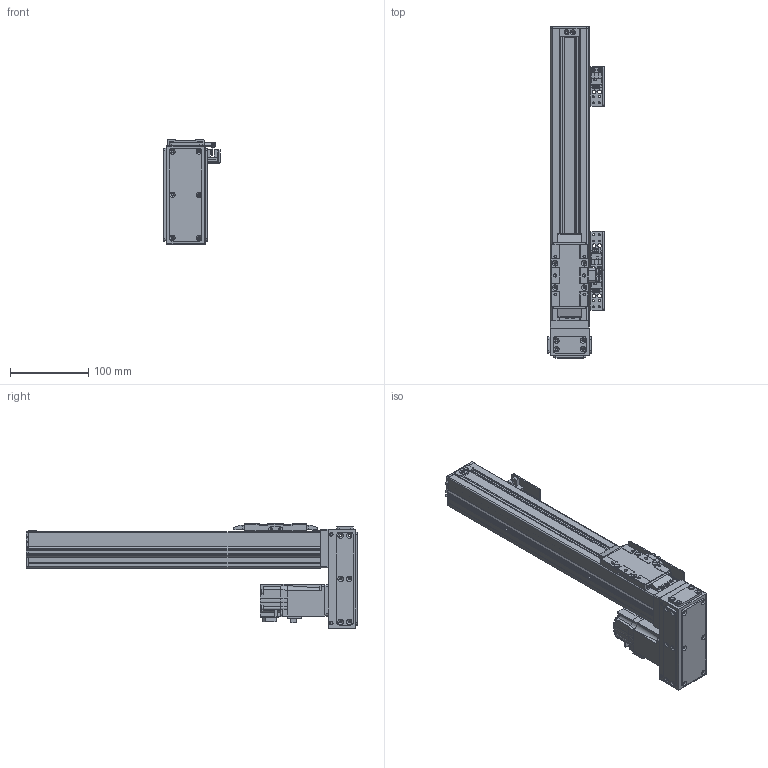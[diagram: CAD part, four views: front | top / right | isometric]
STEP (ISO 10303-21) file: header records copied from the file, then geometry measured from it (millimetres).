
FILE_DESCRIPTION(/* description */ (''),/* implementation_level */ '2;1');
FILE_NAME(/* name */ '\\192.168.0.160\disk1\HAN SHIN Master\B-설계부문\C-표준\B-2024년\BC02-표준도면\+로봇 개선표준도면\홈페이지 표준 도면\홈페이지 최종 작업 폴더\3D\HC\HC50-D10-N-0250-R10 (높이 변경).stp',/* time_stamp */ '2025-01-17T15:43:30+09:00',/* author */ ('user'),/* organization */ (''),/* preprocessor_version */ 'ST-DEVELOPER v18.1',/* originating_system */ 'Autodesk Inventor 2022',/* authorisation */ '');
FILE_SCHEMA (('AUTOMOTIVE_DESIGN { 1 0 10303 214 3 1 1 }'));
Length unit declared in the file: millimetre
Products named in the file (27): HC50-D10-N-0200-R10 (높이 변경); HC50 BASE-R1; HC50 REAR BLOCK; HR45 FRONT BLOCK; SENSOR DOG BRK; HC50 SENSOR DOG; ISO 4762 - M3 x 16; HC45 UPCOVER; HC75,90 SHEET PLATE; HC45, HC65 STOPPER; HC50 REAR COVER-R3; SENSOR BRK(EE-SX674A); EE_SX674A; ESF1210 NUT; HC50SIDECOVER000; HC50 TABLE (서버리 테이프); HC75 TABLE COVER; HC45 TABLE SIDE COVER; MAGNET(∅10X3); hg-kr13_; HC50 DS; HC50 D MOTOR PLATE; HR45 MOTOR PLATE 100W; HC50 D BELT COVER; HR45 ACRYL COVER(정면); HR45 ACRYL COVER(상하면); HR45 ACRYL COVER(측면)
Assembly tree (38 placements, depth 3):
  HC50-D10-N-0200-R10 (높이 변경)
    HC50 BASE-R1
    HC50 REAR BLOCK
    HR45 FRONT BLOCK
    SENSOR BRK(EE-SX674A)  x3
    EE_SX674A  x3
    SENSOR DOG BRK
    HC50 SENSOR DOG
    ISO 4762 - M3 x 16  x2
    HC45 UPCOVER
    HC75,90 SHEET PLATE  x2
    HC45, HC65 STOPPER  x2
    MAGNET(∅10X3)  x3
    HC50 REAR COVER-R3
    ESF1210 NUT
    HC50SIDECOVER000  x2
    HC45 TABLE SIDE COVER  x2
    HC50 TABLE (서버리 테이프)
    HC75 TABLE COVER
    hg-kr13_
    HC50 DS
      HC50 D MOTOR PLATE
      HR45 MOTOR PLATE 100W
      HC50 D BELT COVER
      HR45 ACRYL COVER(정면)
      HR45 ACRYL COVER(상하면)
      HR45 ACRYL COVER(측면)  x2
Bounding box: 72 x 423 x 133 mm (x, y, z)
Volume: 582816.7 mm3; surface area: 371773.2 mm2
Topology: 39 solids, 39 shells, 1551 faces, 4149 edges, 2722 vertices
Faces by surface type: plane 850, cylinder 591, cone 97, bspline 9, torus 4
Full cylindrical faces by diameter (mm): 2.013 x4, 2.459 x91, 3 x2, 3.242 x24, 3.4 x34, 3.5 x34, 4 x8, 4.5 x16, 5 x16, 5.5 x2, 5.6 x2, 5.9 x2, 6 x17, 6.5 x2, 8 x1, 9 x2, 10 x4, 10.5 x3, 12 x1, 15 x3, 18 x1, 21 x2, 22 x2, 24 x1, 24.5 x1, 26 x1, 30 x2
Entity records: 40203 total; most frequent: CARTESIAN_POINT 7729, DIRECTION 6615, ORIENTED_EDGE 6354, EDGE_CURVE 3177, AXIS2_PLACEMENT_3D 2255, VERTEX_POINT 2108, LINE 2105, VECTOR 2105
